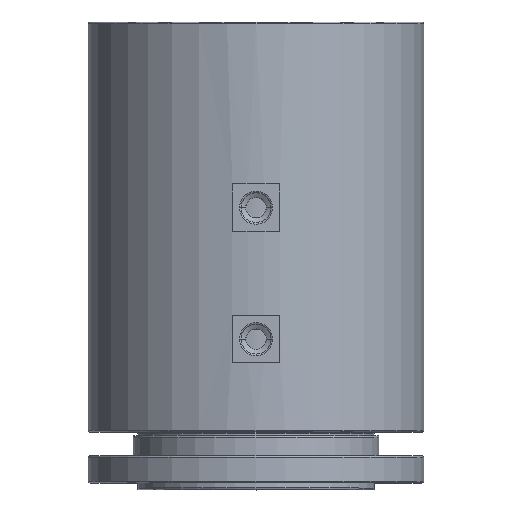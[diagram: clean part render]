
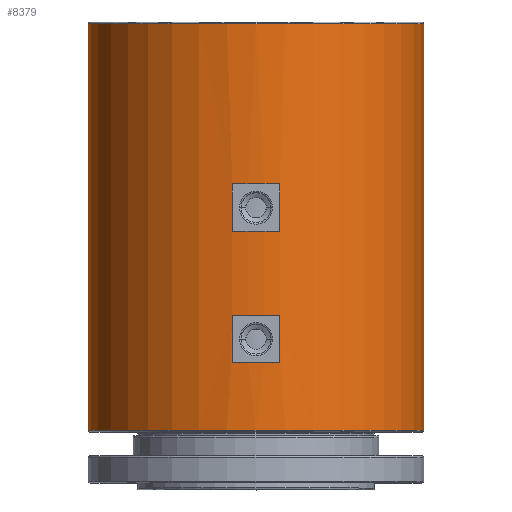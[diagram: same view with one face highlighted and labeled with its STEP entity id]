
A CAD part, top view. The second image highlights one B-rep face of the part: STEP entity #8379.
In plain terms, the highlighted cylindrical face has radius 49.5 mm (diameter 99 mm), a partial arc.
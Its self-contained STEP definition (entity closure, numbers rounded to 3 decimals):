
#337 = VECTOR ( 'NONE', #8465, 1000. ) ;
#458 = LINE ( 'NONE', #10109, #11020 ) ;
#1863 = DIRECTION ( 'NONE',  ( 0., 0., 1. ) ) ;
#2452 = AXIS2_PLACEMENT_3D ( 'NONE', #42798, #19282, #16351 ) ;
#3354 = LINE ( 'NONE', #30706, #8274 ) ;
#3391 = CARTESIAN_POINT ( 'NONE',  ( 49.5, 0.5, 0. ) ) ;
#3439 = DIRECTION ( 'NONE',  ( 0., 1., 0. ) ) ;
#4333 = CYLINDRICAL_SURFACE ( 'NONE', #26224, 49.5 ) ;
#4616 = DIRECTION ( 'NONE',  ( 0., -1., 0. ) ) ;
#4775 = DIRECTION ( 'NONE',  ( 0., -1., 0. ) ) ;
#5395 = AXIS2_PLACEMENT_3D ( 'NONE', #6722, #24410, #10313 ) ;
#5843 = ORIENTED_EDGE ( 'NONE', *, *, #37873, .T. ) ;
#6626 = CIRCLE ( 'NONE', #11634, 49.5 ) ;
#6722 = CARTESIAN_POINT ( 'NONE',  ( 0., 120.5, 0. ) ) ;
#7447 = CIRCLE ( 'NONE', #2452, 49.5 ) ;
#7901 = DIRECTION ( 'NONE',  ( 0., 0., -1. ) ) ;
#8274 = VECTOR ( 'NONE', #20638, 1000. ) ;
#8379 = ADVANCED_FACE ( 'NONE', ( #35040, #10855, #21612 ), #4333, .T. ) ;
#8465 = DIRECTION ( 'NONE',  ( 0., 1., 0. ) ) ;
#8978 = DIRECTION ( 'NONE',  ( 0., 1., 0. ) ) ;
#10109 = CARTESIAN_POINT ( 'NONE',  ( 7., -648.715, 49.003 ) ) ;
#10313 = DIRECTION ( 'NONE',  ( 1., 0., 0. ) ) ;
#10636 = DIRECTION ( 'NONE',  ( 1., 0., 0. ) ) ;
#10826 = ORIENTED_EDGE ( 'NONE', *, *, #40779, .T. ) ;
#10855 = FACE_BOUND ( 'NONE', #29044, .T. ) ;
#11020 = VECTOR ( 'NONE', #37462, 1000. ) ;
#11105 = CARTESIAN_POINT ( 'NONE',  ( 7., 73.2, 49.003 ) ) ;
#11634 = AXIS2_PLACEMENT_3D ( 'NONE', #38265, #4616, #14288 ) ;
#12539 = CARTESIAN_POINT ( 'NONE',  ( -7., 34.4, 49.003 ) ) ;
#12607 = VERTEX_POINT ( 'NONE', #26470 ) ;
#13071 = CARTESIAN_POINT ( 'NONE',  ( 49.5, 120.5, 0. ) ) ;
#13847 = CARTESIAN_POINT ( 'NONE',  ( 7., 20.4, 49.003 ) ) ;
#14288 = DIRECTION ( 'NONE',  ( 0., 0., -1. ) ) ;
#14829 = CIRCLE ( 'NONE', #41322, 49.5 ) ;
#14856 = ORIENTED_EDGE ( 'NONE', *, *, #42081, .T. ) ;
#15083 = ORIENTED_EDGE ( 'NONE', *, *, #41640, .T. ) ;
#15321 = EDGE_CURVE ( 'NONE', #12607, #16550, #28354, .T. ) ;
#15542 = CARTESIAN_POINT ( 'NONE',  ( -7., 73.2, 49.003 ) ) ;
#15796 = ORIENTED_EDGE ( 'NONE', *, *, #23424, .T. ) ;
#16351 = DIRECTION ( 'NONE',  ( 0., 0., 1. ) ) ;
#16550 = VERTEX_POINT ( 'NONE', #29854 ) ;
#16705 = VERTEX_POINT ( 'NONE', #37703 ) ;
#17287 = ORIENTED_EDGE ( 'NONE', *, *, #41619, .F. ) ;
#17920 = ORIENTED_EDGE ( 'NONE', *, *, #37993, .T. ) ;
#18009 = DIRECTION ( 'NONE',  ( 0., -1., 0. ) ) ;
#18291 = DIRECTION ( 'NONE',  ( 0., -1., 0. ) ) ;
#18939 = DIRECTION ( 'NONE',  ( 0., 1., 0. ) ) ;
#19282 = DIRECTION ( 'NONE',  ( 0., 1., 0. ) ) ;
#19284 = VERTEX_POINT ( 'NONE', #12539 ) ;
#19660 = VERTEX_POINT ( 'NONE', #41151 ) ;
#20163 = LINE ( 'NONE', #43899, #44027 ) ;
#20455 = CIRCLE ( 'NONE', #5395, 49.5 ) ;
#20638 = DIRECTION ( 'NONE',  ( 0., -1., 0. ) ) ;
#21612 = FACE_OUTER_BOUND ( 'NONE', #30824, .T. ) ;
#22095 = CARTESIAN_POINT ( 'NONE',  ( -49.5, -648.715, 0. ) ) ;
#23424 = EDGE_CURVE ( 'NONE', #16550, #40337, #37216, .T. ) ;
#24350 = VERTEX_POINT ( 'NONE', #15542 ) ;
#24410 = DIRECTION ( 'NONE',  ( 0., -1., 0. ) ) ;
#25482 = CARTESIAN_POINT ( 'NONE',  ( 7., 34.4, 49.003 ) ) ;
#25495 = CARTESIAN_POINT ( 'NONE',  ( -7., -648.715, 49.003 ) ) ;
#25563 = LINE ( 'NONE', #32968, #38834 ) ;
#25793 = EDGE_CURVE ( 'NONE', #41769, #19284, #25563, .T. ) ;
#26212 = ORIENTED_EDGE ( 'NONE', *, *, #25793, .T. ) ;
#26224 = AXIS2_PLACEMENT_3D ( 'NONE', #31680, #4775, #10636 ) ;
#26470 = CARTESIAN_POINT ( 'NONE',  ( -49.5, 120.5, 0. ) ) ;
#27076 = DIRECTION ( 'NONE',  ( 0., -1., 0. ) ) ;
#27468 = VERTEX_POINT ( 'NONE', #13071 ) ;
#27923 = AXIS2_PLACEMENT_3D ( 'NONE', #43567, #3439, #44235 ) ;
#27935 = EDGE_CURVE ( 'NONE', #27977, #41769, #6626, .T. ) ;
#27977 = VERTEX_POINT ( 'NONE', #13847 ) ;
#28354 = LINE ( 'NONE', #22095, #30150 ) ;
#29044 = EDGE_LOOP ( 'NONE', ( #41306, #35644, #10826, #17920 ) ) ;
#29854 = CARTESIAN_POINT ( 'NONE',  ( -49.5, 0.5, 0. ) ) ;
#30150 = VECTOR ( 'NONE', #18291, 1000. ) ;
#30706 = CARTESIAN_POINT ( 'NONE',  ( 49.5, -648.715, 0. ) ) ;
#30824 = EDGE_LOOP ( 'NONE', ( #15083, #40574, #15796, #17287 ) ) ;
#31347 = EDGE_CURVE ( 'NONE', #42011, #16705, #20163, .T. ) ;
#31680 = CARTESIAN_POINT ( 'NONE',  ( 0., -648.715, 0. ) ) ;
#32912 = EDGE_LOOP ( 'NONE', ( #5843, #34455, #26212, #14856 ) ) ;
#32968 = CARTESIAN_POINT ( 'NONE',  ( -7., -648.715, 49.003 ) ) ;
#33376 = EDGE_CURVE ( 'NONE', #16705, #19660, #14829, .T. ) ;
#34379 = CARTESIAN_POINT ( 'NONE',  ( 0., 59.2, 0. ) ) ;
#34455 = ORIENTED_EDGE ( 'NONE', *, *, #27935, .T. ) ;
#34949 = CARTESIAN_POINT ( 'NONE',  ( -7., 20.4, 49.003 ) ) ;
#35040 = FACE_BOUND ( 'NONE', #32912, .T. ) ;
#35588 = LINE ( 'NONE', #25495, #337 ) ;
#35644 = ORIENTED_EDGE ( 'NONE', *, *, #33376, .T. ) ;
#37216 = CIRCLE ( 'NONE', #27923, 49.5 ) ;
#37462 = DIRECTION ( 'NONE',  ( 0., -1., 0. ) ) ;
#37703 = CARTESIAN_POINT ( 'NONE',  ( 7., 59.2, 49.003 ) ) ;
#37873 = EDGE_CURVE ( 'NONE', #38291, #27977, #458, .T. ) ;
#37993 = EDGE_CURVE ( 'NONE', #24350, #42011, #7447, .T. ) ;
#38265 = CARTESIAN_POINT ( 'NONE',  ( 0., 20.4, 0. ) ) ;
#38291 = VERTEX_POINT ( 'NONE', #25482 ) ;
#38834 = VECTOR ( 'NONE', #8978, 1000. ) ;
#39563 = CARTESIAN_POINT ( 'NONE',  ( 0., 34.4, 0. ) ) ;
#39809 = CIRCLE ( 'NONE', #41237, 49.5 ) ;
#40337 = VERTEX_POINT ( 'NONE', #3391 ) ;
#40574 = ORIENTED_EDGE ( 'NONE', *, *, #15321, .T. ) ;
#40779 = EDGE_CURVE ( 'NONE', #19660, #24350, #35588, .T. ) ;
#41151 = CARTESIAN_POINT ( 'NONE',  ( -7., 59.2, 49.003 ) ) ;
#41237 = AXIS2_PLACEMENT_3D ( 'NONE', #39563, #18939, #1863 ) ;
#41306 = ORIENTED_EDGE ( 'NONE', *, *, #31347, .T. ) ;
#41322 = AXIS2_PLACEMENT_3D ( 'NONE', #34379, #18009, #7901 ) ;
#41619 = EDGE_CURVE ( 'NONE', #27468, #40337, #3354, .T. ) ;
#41640 = EDGE_CURVE ( 'NONE', #27468, #12607, #20455, .T. ) ;
#41769 = VERTEX_POINT ( 'NONE', #34949 ) ;
#42011 = VERTEX_POINT ( 'NONE', #11105 ) ;
#42081 = EDGE_CURVE ( 'NONE', #19284, #38291, #39809, .T. ) ;
#42798 = CARTESIAN_POINT ( 'NONE',  ( 0., 73.2, 0. ) ) ;
#43567 = CARTESIAN_POINT ( 'NONE',  ( 0., 0.5, 0. ) ) ;
#43899 = CARTESIAN_POINT ( 'NONE',  ( 7., -648.715, 49.003 ) ) ;
#44027 = VECTOR ( 'NONE', #27076, 1000. ) ;
#44235 = DIRECTION ( 'NONE',  ( -1., 0., 0. ) ) ;
